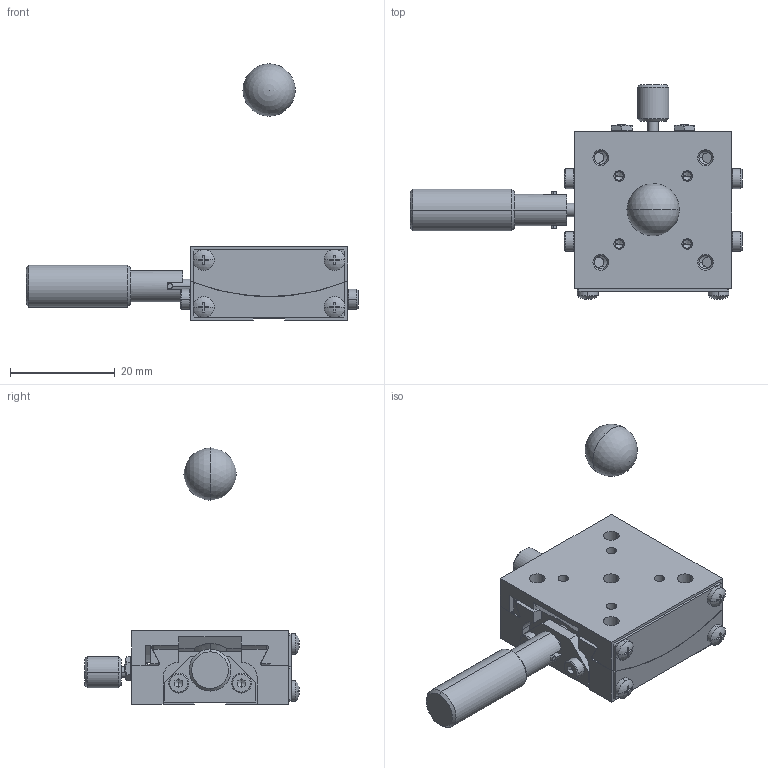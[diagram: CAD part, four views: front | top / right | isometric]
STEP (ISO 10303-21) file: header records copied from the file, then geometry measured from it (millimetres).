
FILE_DESCRIPTION (( 'STEP AP214' ), '1' );
FILE_NAME ('SH03B-DT-R.STEP', '2009-04-21T04:49:47', ( ' ' ), ( ' ' ), 'SwSTEP 2.0', 'SolidWorks 2008', '' );
FILE_SCHEMA (( 'AUTOMOTIVE_DESIGN' ));
Length unit declared in the file: millimetre
Products named in the file (8): 000140-2060-Part-1; 002010-2020-Part-1; 002010-2020; 002010-2010-Part-1; 002010-2010; SH03B-DT-R.sldasm-Part-1; SH03B-DT-R; 000140-2060
Assembly tree (7 placements, depth 3):
  SH03B-DT-R
    SH03B-DT-R.sldasm-Part-1
    000140-2060
      000140-2060-Part-1
    002010-2020
      002010-2020-Part-1
    002010-2010
      002010-2010-Part-1
Bounding box: 63.49 x 41.09 x 49 mm (x, y, z)
Volume: 13352.4 mm3; surface area: 9672.5 mm2
Topology: 4 solids, 20 shells, 671 faces, 1623 edges, 976 vertices
Faces by surface type: plane 279, cylinder 208, cone 158, torus 14, sphere 12
Entity records: 20114 total; most frequent: CARTESIAN_POINT 4119, DIRECTION 3496, ORIENTED_EDGE 3152, EDGE_CURVE 1576, AXIS2_PLACEMENT_3D 1334, VERTEX_POINT 973, LINE 828, VECTOR 828
